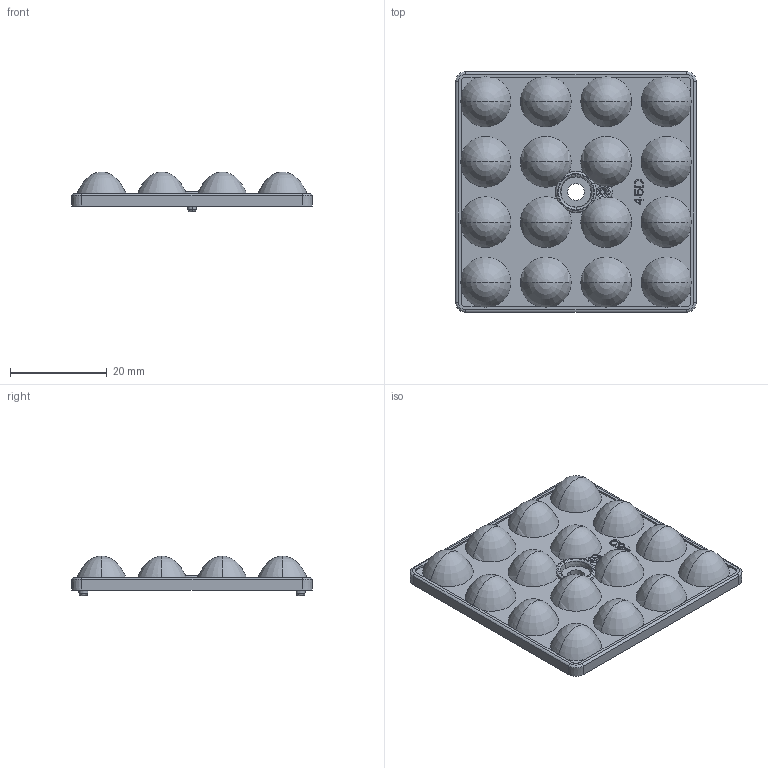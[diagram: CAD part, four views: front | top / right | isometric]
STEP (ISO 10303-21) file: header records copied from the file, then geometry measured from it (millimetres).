
FILE_DESCRIPTION((''),'2;1');
FILE_NAME('16-45','2022-11-11T10:08:04',('Administrator'),(''),'CREO PARAMETRIC BY PTC INC, 2018020','CREO PARAMETRIC BY PTC INC, 2018020','');
FILE_SCHEMA(('CONFIG_CONTROL_DESIGN'));
Length unit declared in the file: millimetre
Products named in the file (1): 16-45
Bounding box: 49.92 x 49.92 x 8.23 mm (x, y, z)
Volume: 6651.9 mm3; surface area: 7066.4 mm2
Topology: 1 solids, 1 shells, 230 faces, 700 edges, 434 vertices
Faces by surface type: plane 123, revolution 64, cone 16, torus 13, cylinder 10, bspline 4
Entity records: 8703 total; most frequent: CARTESIAN_POINT 2781, ORIENTED_EDGE 1272, DIRECTION 1114, EDGE_CURVE 636, VERTEX_POINT 434, AXIS2_PLACEMENT_3D 366, VECTOR 318, LINE 318
